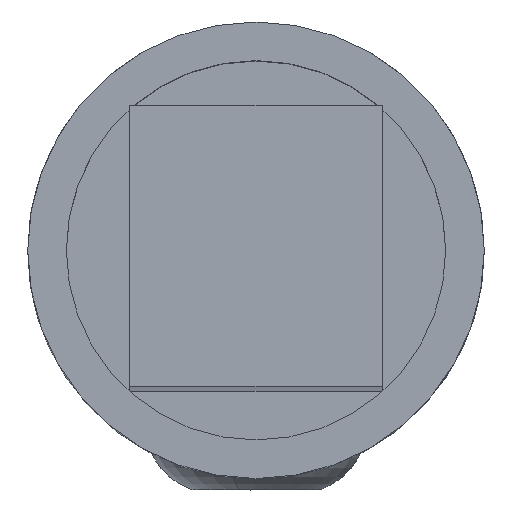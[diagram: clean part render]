
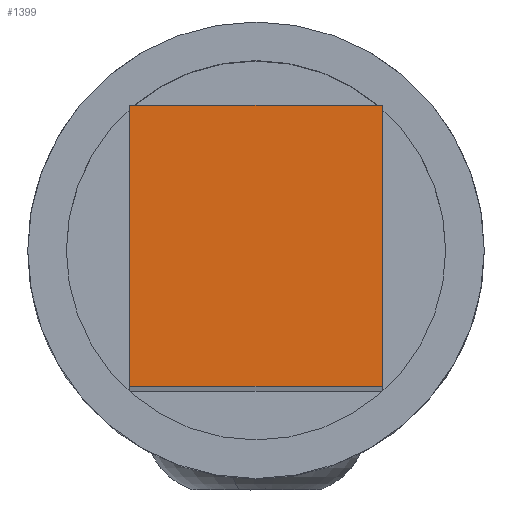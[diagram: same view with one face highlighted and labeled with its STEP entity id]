
A CAD part, top view. The second image highlights one B-rep face of the part: STEP entity #1399.
In plain terms, the highlighted planar face has unit normal (0, 0, 1).
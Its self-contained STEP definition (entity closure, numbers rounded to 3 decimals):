
#26 = FACE_OUTER_BOUND ( 'NONE', #886, .T. ) ;
#74 = VECTOR ( 'NONE', #1860, 1000. ) ;
#125 = ORIENTED_EDGE ( 'NONE', *, *, #1692, .T. ) ;
#127 = DIRECTION ( 'NONE',  ( 1., 0., 0. ) ) ;
#165 = CARTESIAN_POINT ( 'NONE',  ( 1.8, 2., 40. ) ) ;
#267 = ORIENTED_EDGE ( 'NONE', *, *, #750, .T. ) ;
#408 = CARTESIAN_POINT ( 'NONE',  ( -1.8, -2., 40. ) ) ;
#432 = VERTEX_POINT ( 'NONE', #808 ) ;
#463 = VECTOR ( 'NONE', #924, 1000. ) ;
#482 = ORIENTED_EDGE ( 'NONE', *, *, #1411, .T. ) ;
#492 = VERTEX_POINT ( 'NONE', #1378 ) ;
#708 = DIRECTION ( 'NONE',  ( 1., 0., 0. ) ) ;
#732 = DIRECTION ( 'NONE',  ( 0., 1., 0. ) ) ;
#750 = EDGE_CURVE ( 'NONE', #492, #432, #1225, .T. ) ;
#808 = CARTESIAN_POINT ( 'NONE',  ( -1.8, 2., 40. ) ) ;
#868 = AXIS2_PLACEMENT_3D ( 'NONE', #1291, #1016, #127 ) ;
#875 = PLANE ( 'NONE',  #868 ) ;
#886 = EDGE_LOOP ( 'NONE', ( #1421, #267, #482, #125 ) ) ;
#893 = LINE ( 'NONE', #408, #1650 ) ;
#924 = DIRECTION ( 'NONE',  ( -1., 0., 0. ) ) ;
#1016 = DIRECTION ( 'NONE',  ( 0., 0., 1. ) ) ;
#1183 = VECTOR ( 'NONE', #732, 1000. ) ;
#1225 = LINE ( 'NONE', #165, #463 ) ;
#1249 = CARTESIAN_POINT ( 'NONE',  ( -1.8, -2., 40. ) ) ;
#1259 = LINE ( 'NONE', #1586, #1183 ) ;
#1291 = CARTESIAN_POINT ( 'NONE',  ( 1.8, -2., 40. ) ) ;
#1303 = CARTESIAN_POINT ( 'NONE',  ( 1.8, -2., 40. ) ) ;
#1378 = CARTESIAN_POINT ( 'NONE',  ( 1.8, 2., 40. ) ) ;
#1399 = ADVANCED_FACE ( 'NONE', ( #26 ), #875, .T. ) ;
#1411 = EDGE_CURVE ( 'NONE', #432, #1859, #1600, .T. ) ;
#1421 = ORIENTED_EDGE ( 'NONE', *, *, #1740, .T. ) ;
#1565 = VERTEX_POINT ( 'NONE', #1303 ) ;
#1586 = CARTESIAN_POINT ( 'NONE',  ( 1.8, 2., 40. ) ) ;
#1600 = LINE ( 'NONE', #1707, #74 ) ;
#1650 = VECTOR ( 'NONE', #708, 1000. ) ;
#1692 = EDGE_CURVE ( 'NONE', #1859, #1565, #893, .T. ) ;
#1707 = CARTESIAN_POINT ( 'NONE',  ( -1.8, 2., 40. ) ) ;
#1740 = EDGE_CURVE ( 'NONE', #1565, #492, #1259, .T. ) ;
#1859 = VERTEX_POINT ( 'NONE', #1249 ) ;
#1860 = DIRECTION ( 'NONE',  ( 0., -1., 0. ) ) ;
